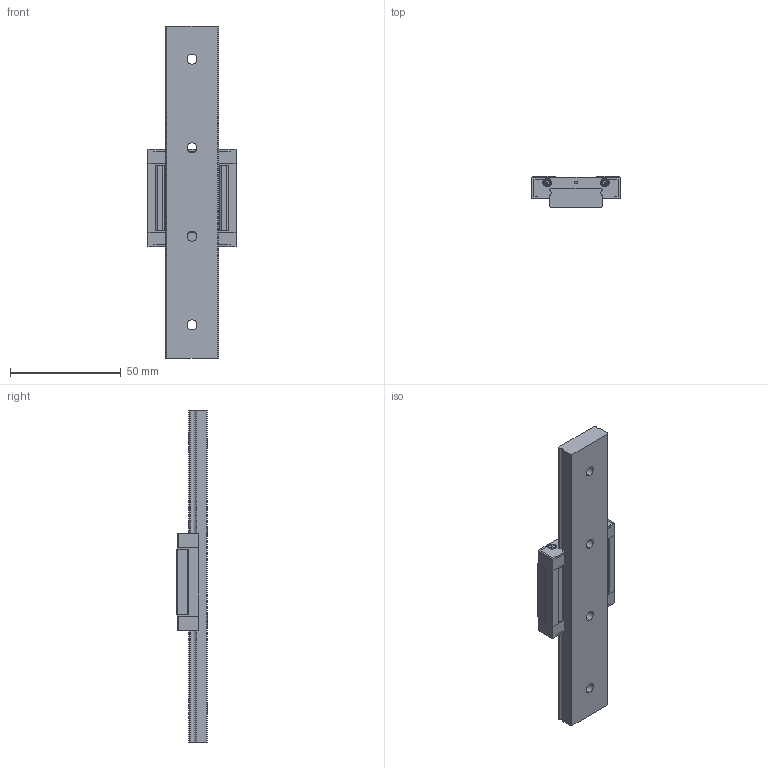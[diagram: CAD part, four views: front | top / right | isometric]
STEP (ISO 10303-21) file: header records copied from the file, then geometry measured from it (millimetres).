
FILE_DESCRIPTION (( 'STEP AP214' ), '1' );
FILE_NAME ('FBXX12WS-SS.STEP', '2022-08-06T22:03:40', ( 'JST' ), ( 'JST' ), 'SwSTEP 2.0', 'SolidWorks 2016', '' );
FILE_SCHEMA (( 'AUTOMOTIVE_DESIGN' ));
Length unit declared in the file: millimetre
Products named in the file (8): 12W絳寢; 12WS-SS滅鳥え; M2蹟佪; FBXX12WS-SS; 12WS傷裔; 12WS-SS賑輸; 12WS悜遠釱; 12WS賑輸
Assembly tree (12 placements, depth 3):
  FBXX12WS-SS
    12W絳寢
    12WS-SS賑輸
      12WS賑輸
      12WS悜遠釱
      12WS傷裔  x2
      12WS-SS滅鳥え  x2
      M2蹟佪  x4
Bounding box: 40 x 14 x 150 mm (x, y, z)
Volume: 40809.3 mm3; surface area: 20877 mm2
Topology: 11 solids, 11 shells, 546 faces, 1486 edges, 976 vertices
Faces by surface type: cylinder 271, plane 231, cone 24, bspline 12, torus 8
Entity records: 11474 total; most frequent: CARTESIAN_POINT 4280, ORIENTED_EDGE 1474, DIRECTION 1407, EDGE_CURVE 737, VERTEX_POINT 484, VECTOR 473, LINE 473, AXIS2_PLACEMENT_3D 467
